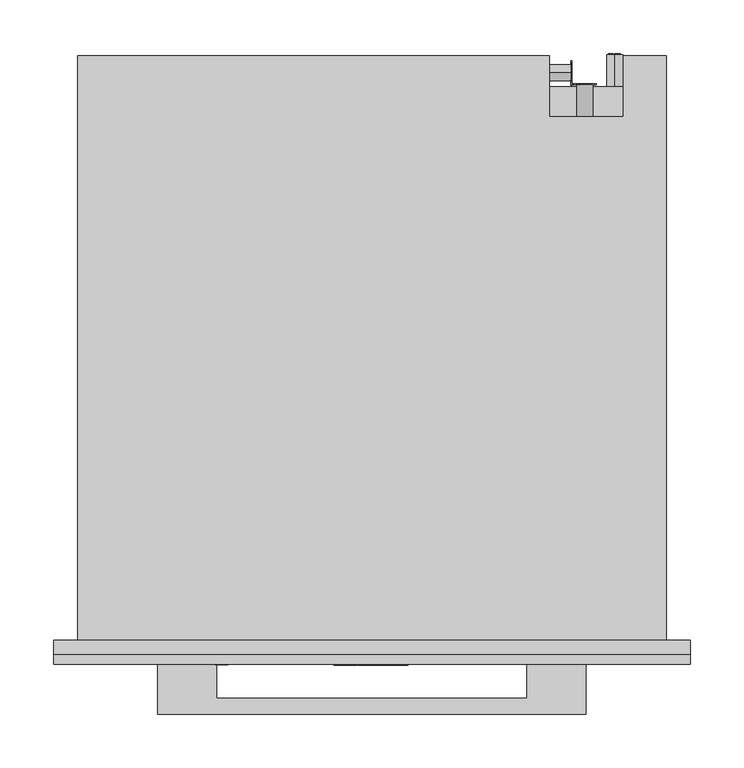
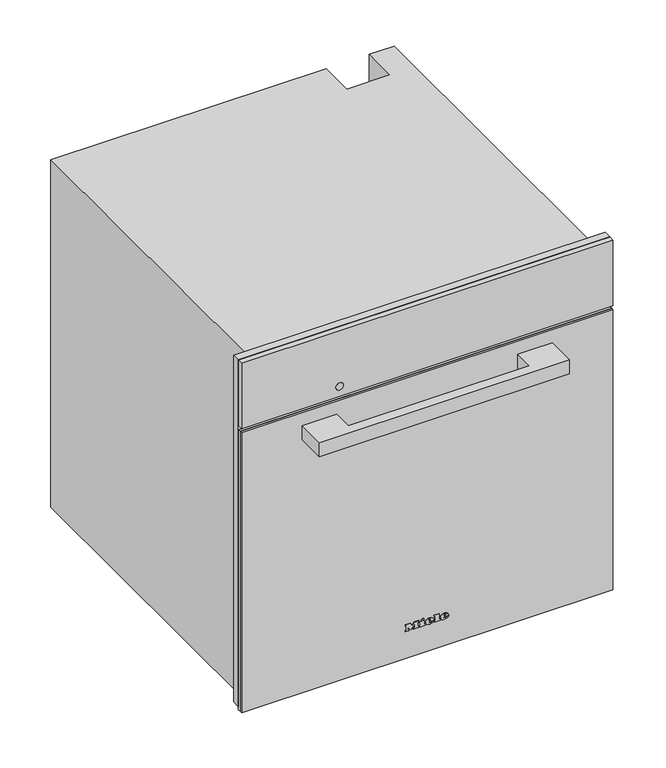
"""IFC4 building model written with IfcOpenShell, lengths in millimetres: proxy geometry, 12094840_F_DGC7665HCPro_BRWS : 23766519_F_12094840_DGC7665HCPro_BRWS."""

from ifc_helpers import new_model, si_unit, point, frame, frame_2d, origin, place, context, project, spatial, polyline, circle_curve, ellipse_curve, trimmed, segment, composite_curve, outline, extrude, faceted_brep, source, transform, mapped, element, save
from ifc_brep_helpers import plane_surface, cylinder_surface, revolved_surface, extruded_surface, advanced_brep


def specialty_equipment_ab99b57f(model_context):
    return source(origin(), model_context, "Body", "SolidModel", [
        extrude(outline(polyline([(596.0, 297.5), (596.0, -297.5), (9.0, -297.5), (9.0, 297.5), (596.0, 297.5)]), holes=[polyline([(485.0, -272.5), (485.0, 272.5), (27.0, 272.5), (27.0, -272.5), (485.0, -272.5)])]), frame((0.0, -13.0, 0.0), z_axis=(0.0, 1.0, 0.0), x_axis=(0.0, 0.0, 1.0)), (0.0, 0.0, 1.0), 13.0),
        extrude(outline(polyline([(523.0, 196.9217896), (523.0, 198.4267862), (533.0435673, 201.1942402), (533.0435673, 199.9014806), (524.4295103, 197.7797951), (533.0470645, 195.3087512), (533.0470645, 193.4373937), (524.4121052, 190.9191482), (533.0472266, 188.8443938), (533.0472266, 187.5376524), (523.0, 190.2769667), (523.0, 191.6257455), (531.8347238, 194.3884733), (523.0, 196.9217896)])), frame((0.0, 519.0, 0.0), z_axis=(0.0, 1.0, 0.0), x_axis=(0.0, 0.0, 1.0)), (0.0, 0.0, 1.0), 1.0),
        extrude(outline(polyline([(533.0468463, 209.521488), (533.0468463, 208.2566067), (528.129594, 208.2566067), (533.0474898, 203.1074328), (533.0474898, 201.3597489), (528.9313111, 205.6695027), (523.0, 201.1858157), (523.0, 202.7358731), (528.0700777, 206.5685235), (526.4282746, 208.2823622), (523.0, 208.2823622), (523.0, 209.521488), (533.0468463, 209.521488)])), frame((0.0, 519.0, 0.0), z_axis=(0.0, 1.0, 0.0), x_axis=(0.0, 0.0, 1.0)), (0.0, 0.0, 1.0), 1.0),
        extrude(outline(polyline([(518.3136153, 20.0), (522.323529, 30.045631), (523.3928394, 30.045631), (527.4027531, 20.0), (526.0759254, 20.0), (524.925681, 23.1392597), (520.7882348, 23.1392597), (519.640443, 20.0), (518.3136153, 20.0)]), holes=[polyline([(521.2493136, 24.3949636), (524.4670548, 24.3949636), (523.5620651, 26.864678), (522.8581842, 28.7899271), (522.2327848, 27.0805021), (521.2493136, 24.3949636)])]), frame((186.0, 0.0, 0.0), z_axis=(1.0, 0.0, 0.0), x_axis=(0.0, 1.0, 0.0)), (0.0, 0.0, 1.0), 1.0),
        extrude(outline(polyline([(530.5420128, 20.0), (527.8025182, 30.045631), (529.0974628, 30.045631), (530.6867131, 23.4433755), (531.1772224, 21.4053092), (531.7020674, 23.207931), (533.6935352, 30.045631), (535.5599232, 30.045631), (537.0069257, 25.0890343), (538.0835937, 21.4053092), (538.5593878, 23.3845144), (540.1633533, 30.045631), (541.4582979, 30.045631), (538.7163507, 20.0), (537.3748077, 20.0), (534.9664069, 27.7500474), (534.630408, 28.8316204), (534.2527159, 27.5293182), (532.0576866, 20.0), (530.5420128, 20.0)])), frame((186.0, 0.0, 0.0), z_axis=(1.0, 0.0, 0.0), x_axis=(0.0, 1.0, 0.0)), (0.0, 0.0, 1.0), 1.0),
        advanced_brep(
        [(227.0, 547.0, 396.5), (227.0, 547.0, 381.5), (221.4098301, 547.0, 384.0), (225.5, 547.0, 384.0), (225.5, 547.0, 394.0), (224.4955303, 547.0, 394.0), (224.4955303, 547.0, 385.0), (221.0315043, 547.0, 385.0), (221.0315043, 547.0, 384.4582978), (232.0, 547.0, 384.0), (232.0, 547.0, 394.0), (227.0, 547.0, 394.0), (227.0, 547.0, 393.0), (231.0, 547.0, 393.0), (231.0, 547.0, 389.5), (228.0, 547.0, 389.5), (228.0, 547.0, 388.5), (231.0, 547.0, 388.5), (231.0, 547.0, 385.0), (227.0, 547.0, 385.0), (227.0, 547.0, 384.0), (227.0, 517.0, 381.5), (227.0, 517.0, 396.5), (232.0, 548.0, 394.0), (232.0, 548.0, 384.0), (227.0, 548.0, 384.0), (227.0, 548.0, 385.0), (231.0, 548.0, 385.0), (231.0, 548.0, 388.5), (228.0, 548.0, 388.5), (228.0, 548.0, 389.5), (231.0, 548.0, 389.5), (231.0, 548.0, 393.0), (227.0, 548.0, 393.0), (227.0, 548.0, 394.0), (225.5, 548.0, 384.0), (221.0315043, 548.0, 384.0), (221.0315043, 548.0, 385.0), (224.4955303, 548.0, 385.0), (224.4955303, 548.0, 394.0), (225.5, 548.0, 394.0), (221.0315043, 547.0, 384.0)],
        [
            (0, 1, circle_curve(frame((227.0, 547.0, 389.0), z_axis=(0.0, 1.0, 0.0), x_axis=(0.0, 0.0, 1.0)), 7.5)),
            (1, 2, circle_curve(frame((227.0, 547.0, 389.0), z_axis=(0.0, 1.0, 0.0), x_axis=(0.0, 0.0, 1.0)), 7.5)),
            (2, 3),
            (3, 4),
            (4, 5),
            (5, 6),
            (6, 7),
            (7, 8),
            (8, 0, circle_curve(frame((227.0, 547.0, 389.0), z_axis=(0.0, 1.0, 0.0), x_axis=(0.0, 0.0, 1.0)), 7.5)),
            (9, 10),
            (10, 11),
            (11, 12),
            (12, 13),
            (13, 14),
            (14, 15),
            (15, 16),
            (16, 17),
            (17, 18),
            (18, 19),
            (19, 20),
            (20, 9),
            (21, 22, circle_curve(frame((227.0, 517.0, 389.0), z_axis=(0.0, -1.0, 0.0), x_axis=(0.0, 0.0, 1.0)), 7.5)),
            (22, 21, circle_curve(frame((227.0, 517.0, 389.0), z_axis=(0.0, -1.0, 0.0), x_axis=(0.0, 0.0, 1.0)), 7.5)),
            (0, 22),
            (21, 1),
            (8, 2, circle_curve(frame((227.0, 547.0, 389.0), z_axis=(0.0, -1.0, 0.0), x_axis=(0.0, 0.0, 1.0)), 7.5)),
            (23, 24),
            (24, 25),
            (25, 26),
            (26, 27),
            (27, 28),
            (28, 29),
            (29, 30),
            (30, 31),
            (31, 32),
            (32, 33),
            (33, 34),
            (34, 23),
            (35, 36),
            (36, 37),
            (37, 38),
            (38, 39),
            (39, 40),
            (40, 35),
            (8, 41),
            (41, 2),
            (23, 10),
            (9, 24),
            (20, 25),
            (19, 26),
            (18, 27),
            (17, 28),
            (16, 29),
            (15, 30),
            (14, 31),
            (13, 32),
            (12, 33),
            (11, 34),
            (35, 3),
            (41, 36),
            (7, 37),
            (6, 38),
            (5, 39),
            (4, 40),
        ],
        [
            plane_surface(frame((227.0, 547.0, 396.5), z_axis=(0.0, 1.0, 0.0), x_axis=(1.0, 0.0, 0.0))),
            plane_surface(frame((227.0, 517.0, 396.5), z_axis=(0.0, -1.0, 0.0), x_axis=(-1.0, 0.0, 0.0))),
            cylinder_surface(frame((227.0, 547.0, 389.0), z_axis=(0.0, -1.0, 0.0), x_axis=(0.0, 0.0, 1.0)), 7.5),
            plane_surface(frame((232.0, 548.0, 394.0), z_axis=(0.0, 1.0, 0.0), x_axis=(0.0, 0.0, -1.0))),
            plane_surface(frame((232.0, 547.0, 394.0), z_axis=(0.0, -1.0, 0.0), x_axis=(0.0, 0.0, 1.0))),
            plane_surface(frame((232.0, 548.0, 394.0), z_axis=(1.0, 0.0, 0.0), x_axis=(0.0, -1.0, 0.0))),
            plane_surface(frame((232.0, 548.0, 384.0), z_axis=(0.0, 0.0, -1.0), x_axis=(0.0, -1.0, 0.0))),
            plane_surface(frame((227.0, 548.0, 384.0), z_axis=(-1.0, 0.0, 0.0), x_axis=(0.0, -1.0, 0.0))),
            plane_surface(frame((227.0, 548.0, 385.0), z_axis=(0.0, 0.0, 1.0), x_axis=(0.0, -1.0, 0.0))),
            plane_surface(frame((231.0, 548.0, 385.0), z_axis=(-1.0, 0.0, 0.0), x_axis=(0.0, -1.0, 0.0))),
            plane_surface(frame((231.0, 548.0, 388.5), z_axis=(0.0, 0.0, -1.0), x_axis=(0.0, -1.0, 0.0))),
            plane_surface(frame((228.0, 548.0, 388.5), z_axis=(-1.0, 0.0, 0.0), x_axis=(0.0, -1.0, 0.0))),
            plane_surface(frame((228.0, 548.0, 389.5), z_axis=(0.0, 0.0, 1.0), x_axis=(0.0, -1.0, 0.0))),
            plane_surface(frame((231.0, 548.0, 389.5), z_axis=(-1.0, 0.0, 0.0), x_axis=(0.0, -1.0, 0.0))),
            plane_surface(frame((231.0, 548.0, 393.0), z_axis=(0.0, 0.0, -1.0), x_axis=(0.0, -1.0, 0.0))),
            plane_surface(frame((227.0, 548.0, 393.0), z_axis=(-1.0, 0.0, 0.0), x_axis=(0.0, -1.0, 0.0))),
            plane_surface(frame((227.0, 548.0, 394.0), z_axis=(0.0, 0.0, 1.0), x_axis=(0.0, -1.0, 0.0))),
            plane_surface(frame((225.5, 548.0, 384.0), z_axis=(0.0, 0.0, -1.0), x_axis=(0.0, -1.0, 0.0))),
            plane_surface(frame((221.0315043, 548.0, 384.0), z_axis=(-1.0, 0.0, 0.0), x_axis=(0.0, -1.0, 0.0))),
            plane_surface(frame((221.0315043, 548.0, 385.0), z_axis=(0.0, 0.0, 1.0), x_axis=(0.0, -1.0, 0.0))),
            plane_surface(frame((224.4955303, 548.0, 385.0), z_axis=(-1.0, 0.0, 0.0), x_axis=(0.0, -1.0, 0.0))),
            plane_surface(frame((224.4955303, 548.0, 394.0), z_axis=(0.0, 0.0, 1.0), x_axis=(0.0, -1.0, 0.0))),
            plane_surface(frame((225.5, 548.0, 394.0), z_axis=(1.0, 0.0, 0.0), x_axis=(0.0, -1.0, 0.0))),
        ],
        [
            (0, [[1, 2, 3, 4, 5, 6, 7, 8, 9], [10, 11, 12, 13, 14, 15, 16, 17, 18, 19, 20, 21]]),
            (1, [[22, 23]]),
            (2, [[-1, 24, -22, 25]]),
            (2, [[-23, -24, -9, 26, -2, -25]]),
            (3, [[27, 28, 29, 30, 31, 32, 33, 34, 35, 36, 37, 38]]),
            (3, [[39, 40, 41, 42, 43, 44]]),
            (4, [[45, 46, -26]]),
            (5, [[-27, 47, -10, 48]]),
            (6, [[-28, -48, -21, 49]]),
            (7, [[-29, -49, -20, 50]]),
            (8, [[-30, -50, -19, 51]]),
            (9, [[-31, -51, -18, 52]]),
            (10, [[-32, -52, -17, 53]]),
            (11, [[-33, -53, -16, 54]]),
            (12, [[-34, -54, -15, 55]]),
            (13, [[-35, -55, -14, 56]]),
            (14, [[-36, -56, -13, 57]]),
            (15, [[-37, -57, -12, 58]]),
            (16, [[-38, -58, -11, -47]]),
            (17, [[-39, 59, -3, -46, 60]]),
            (18, [[-40, -60, -45, -8, 61]]),
            (19, [[-41, -61, -7, 62]]),
            (20, [[-42, -62, -6, 63]]),
            (21, [[-43, -63, -5, 64]]),
            (22, [[-44, -64, -4, -59]]),
        ],
    ),
        extrude(outline(composite_curve([segment(trimmed(circle_curve(frame_2d((528.0, 199.0)), 7.5), [point((528.0, 206.5))], [point((528.0, 191.5))], False, "CARTESIAN"), True, "CONTINUOUS"), segment(trimmed(circle_curve(frame_2d((528.0, 199.0)), 7.5), [point((528.0, 191.5))], [point((528.0, 206.5))], False, "CARTESIAN"), True, "CONTINUOUS")], self_intersect=False)), frame((0.0, 489.0, 0.0), z_axis=(0.0, 1.0, 0.0), x_axis=(0.0, 0.0, 1.0)), (0.0, 0.0, 1.0), 30.0),
        extrude(outline(composite_curve([segment(trimmed(circle_curve(frame_2d((530.0, 25.0)), 7.5), [point((530.0, 17.5))], [point((530.0, 32.5))], False, "CARTESIAN"), True, "CONTINUOUS"), segment(trimmed(circle_curve(frame_2d((530.0, 25.0)), 7.5), [point((530.0, 32.5))], [point((530.0, 17.5))], False, "CARTESIAN"), True, "CONTINUOUS")], self_intersect=False)), frame((166.0, 0.0, 0.0), z_axis=(1.0, 0.0, 0.0), x_axis=(0.0, 1.0, 0.0)), (0.0, 0.0, 1.0), 20.0),
        faceted_brep([(-275.0, 546.0, 0.0), (-275.0, 546.0, 588.0), (166.0, 546.0, 588.0), (166.0, 546.0, 0.0), (235.0, 546.0, 588.0), (275.0, 546.0, 588.0), (275.0, 546.0, 478.0), (235.0, 546.0, 478.0), (275.0, 0.0, 588.0), (-275.0, 0.0, 588.0), (-275.0, 0.0, 0.0), (275.0, 0.0, 0.0), (-272.5, 0.0, 485.0), (272.5, 0.0, 485.0), (272.5, 0.0, 27.0), (-272.5, 0.0, 27.0), (235.0, 489.0, 588.0), (166.0, 489.0, 588.0), (166.0, 517.0, 0.0), (275.0, 517.0, 0.0), (275.0, 517.0, 478.0), (272.5, 17.0, 485.0), (-272.5, 17.0, 485.0), (-272.5, 17.0, 27.0), (272.5, 17.0, 27.0), (231.0, 17.0, 409.0), (231.0, 17.0, 61.0), (-231.0, 17.0, 61.0), (-231.0, 17.0, 409.0), (231.0, 411.0, 409.0), (-231.0, 411.0, 409.0), (-231.0, 411.0, 61.0), (231.0, 411.0, 61.0), (235.0, 489.0, 477.0), (166.0, 489.0, 477.0), (166.0, 517.0, 477.0), (235.0, 517.0, 477.0), (235.0, 517.0, 478.0)], [[[0, 1, 2, 3]], [[4, 5, 6, 7]], [[8, 9, 10, 11], [12, 13, 14, 15]], [[9, 8, 5, 4, 16, 17, 2, 1]], [[1, 0, 10, 9]], [[11, 10, 0, 3, 18, 19]], [[8, 11, 19, 20, 6, 5]], [[21, 22, 23, 24], [25, 26, 27, 28]], [[22, 21, 13, 12]], [[23, 22, 12, 15]], [[24, 23, 15, 14]], [[21, 24, 14, 13]], [[29, 30, 31, 32]], [[29, 32, 26, 25]], [[32, 31, 27, 26]], [[31, 30, 28, 27]], [[30, 29, 25, 28]], [[16, 33, 34, 17]], [[17, 34, 35, 18, 3, 2]], [[34, 33, 36, 35]], [[33, 16, 4, 7, 37, 36]], [[37, 20, 19, 18, 35, 36]], [[20, 37, 7, 6]]]),
        advanced_brep(
        [(26.2998, -23.0, 52.7018), (26.2998, -23.0, 53.8532), (33.9264, -23.0, 53.8532), (20.6568, -23.0, 53.8532), (23.7918, -23.0, 50.0), (33.7326, -23.0, 52.7018), (30.2898, -23.0, 52.7018), (27.5766, -23.0, 51.425), (26.2998, -23.0, 55.3124), (26.2998, -23.0, 56.555), (28.2492, -23.0, 56.555), (28.2492, -23.0, 55.3124), (26.2998, -22.0, 52.7018), (27.5766, -22.0, 51.425), (30.2898, -22.0, 52.7018), (33.7326, -22.0, 52.7018), (23.7918, -22.0, 50.0), (20.6568, -22.0, 53.8532), (33.9264, -22.0, 53.8532), (26.2998, -22.0, 53.8532), (26.2998, -22.0, 55.3124), (28.2492, -22.0, 55.3124), (28.2492, -22.0, 56.555), (26.2998, -22.0, 56.555)],
        [
            (0, 1),
            (1, 2),
            (2, 3, ellipse_curve(frame((27.2916, -23.0, 53.8532), z_axis=(0.0, -1.0, 0.0), x_axis=(-1.0, 0.0, 0.0)), 6.6348, 5.4834)),
            (3, 4, circle_curve(frame((25.0686622, -23.0, 54.2408), z_axis=(0.0, -1.0, 0.0), x_axis=(0.0, 0.0, -1.0)), 4.4288556)),
            (4, 5, circle_curve(frame((27.1587808, -23.0, 57.2504), z_axis=(0.0, -1.0, 0.0), x_axis=(0.0, 0.0, -1.0)), 7.9940516)),
            (5, 6),
            (6, 7, circle_curve(frame((28.1338588, -23.0, 53.762), z_axis=(0.0, 1.0, 0.0), x_axis=(0.0, 0.0, -1.0)), 2.4025208)),
            (7, 0, circle_curve(frame((27.5766, -23.0, 52.7018), z_axis=(0.0, 1.0, 0.0), x_axis=(0.0, 0.0, -1.0)), 1.2768)),
            (8, 9),
            (9, 10, circle_curve(frame((27.2745, -23.0, 56.555), z_axis=(0.0, 1.0, 0.0), x_axis=(0.0, 0.0, -1.0)), 0.9747)),
            (10, 11),
            (11, 8),
            (12, 13, circle_curve(frame((27.5766, -22.0, 52.7018), z_axis=(0.0, -1.0, 0.0), x_axis=(0.0, 0.0, -1.0)), 1.2768)),
            (13, 14, circle_curve(frame((28.1338588, -22.0, 53.762), z_axis=(0.0, -1.0, 0.0), x_axis=(0.0, 0.0, -1.0)), 2.4025208)),
            (14, 15),
            (15, 16, circle_curve(frame((27.1587808, -22.0, 57.2504), z_axis=(0.0, 1.0, 0.0), x_axis=(0.0, 0.0, -1.0)), 7.9940516)),
            (16, 17, circle_curve(frame((25.0686622, -22.0, 54.2408), z_axis=(0.0, 1.0, 0.0), x_axis=(0.0, 0.0, -1.0)), 4.4288556)),
            (17, 18, ellipse_curve(frame((27.2916, -22.0, 53.8532), z_axis=(0.0, 1.0, 0.0), x_axis=(-1.0, 0.0, 0.0)), 6.6348, 5.4834)),
            (18, 19),
            (19, 12),
            (20, 21),
            (21, 22),
            (22, 23, circle_curve(frame((27.2745, -22.0, 56.555), z_axis=(0.0, -1.0, 0.0), x_axis=(0.0, 0.0, -1.0)), 0.9747)),
            (23, 20),
            (0, 12),
            (19, 1),
            (18, 2),
            (5, 15),
            (14, 6),
            (17, 3),
            (13, 7),
            (16, 4),
            (8, 20),
            (23, 9),
            (22, 10),
            (21, 11),
        ],
        [
            plane_surface(frame((26.2998, -23.0, 53.8532), z_axis=(0.0, -1.0, 0.0), x_axis=(0.0, 0.0, 1.0))),
            plane_surface(frame((26.2998, -22.0, 53.8532), z_axis=(0.0, 1.0, 0.0), x_axis=(0.0, 0.0, -1.0))),
            plane_surface(frame((26.2998, -23.0, 52.7018), z_axis=(1.0, 0.0, 0.0), x_axis=(0.0, 1.0, 0.0))),
            plane_surface(frame((26.2998, -23.0, 53.8532), z_axis=(0.0, 0.0, -1.0), x_axis=(0.0, 1.0, 0.0))),
            plane_surface(frame((33.7326, -23.0, 52.7018), z_axis=(0.0, 0.0, 1.0), x_axis=(0.0, 1.0, 0.0))),
            extruded_surface(trimmed(ellipse_curve(frame((27.2916, -21.0, 53.8532), z_axis=(0.0, -1.0, 0.0), x_axis=(-1.0, 0.0, 0.0)), 6.6348, 5.4834), [point((33.9264, -21.0, 53.8532))], [point((20.6568, -21.0, 53.8532))], True, "CARTESIAN"), (0.0, -1.0, 0.0), 1.0),
            revolved_surface(polyline([(28.1338588, -22.0, 51.3594792), (28.1338588, -23.0, 51.3594792)]), (28.1338588, -22.0, 53.762), (0.0, 1.0, 0.0)),
            revolved_surface(polyline([(27.5766, -22.0, 51.425), (27.5766, -23.0, 51.425)]), (27.5766, -22.0, 52.7018), (0.0, 1.0, 0.0)),
            cylinder_surface(frame((25.0686622, -22.0, 54.2408), z_axis=(0.0, -1.0, 0.0), x_axis=(0.0, 0.0, -1.0)), 4.4288556),
            cylinder_surface(frame((27.1587808, -22.0, 57.2504), z_axis=(0.0, -1.0, 0.0), x_axis=(0.0, 0.0, -1.0)), 7.9940516),
            plane_surface(frame((26.2998, -23.0, 55.3124), z_axis=(1.0, 0.0, 0.0), x_axis=(0.0, 1.0, 0.0))),
            revolved_surface(polyline([(27.2745, -22.0, 55.5803), (27.2745, -23.0, 55.5803)]), (27.2745, -22.0, 56.555), (0.0, 1.0, 0.0)),
            plane_surface(frame((28.2492, -23.0, 56.555), z_axis=(-1.0, 0.0, 0.0), x_axis=(0.0, 1.0, 0.0))),
            plane_surface(frame((28.2492, -23.0, 55.3124), z_axis=(0.0, 0.0, 1.0), x_axis=(0.0, 1.0, 0.0))),
        ],
        [
            (0, [[1, 2, 3, 4, 5, 6, 7, 8], [9, 10, 11, 12]]),
            (1, [[13, 14, 15, 16, 17, 18, 19, 20], [21, 22, 23, 24]]),
            (2, [[-1, 25, -20, 26]]),
            (3, [[-2, -26, -19, 27]]),
            (4, [[-6, 28, -15, 29]]),
            (5, [[-3, -27, -18, 30]]),
            (6, [[-7, -29, -14, 31]]),
            (7, [[-8, -31, -13, -25]]),
            (8, [[-4, -30, -17, 32]]),
            (9, [[-5, -32, -16, -28]]),
            (10, [[-9, 33, -24, 34]]),
            (11, [[-10, -34, -23, 35]]),
            (12, [[-11, -35, -22, 36]]),
            (13, [[-12, -36, -21, -33]]),
        ],
    ),
        advanced_brep(
        [(2.508, -23.0, 52.7018), (2.508, -23.0, 53.8532), (10.1346, -23.0, 53.8532), (-3.135, -23.0, 53.8532), (0.0, -23.0, 50.0), (9.9408, -23.0, 52.7018), (6.498, -23.0, 52.7018), (3.7848, -23.0, 51.425), (2.508, -23.0, 55.3124), (2.508, -23.0, 56.555), (4.4574, -23.0, 56.555), (4.4574, -23.0, 55.3124), (2.508, -22.0, 52.7018), (3.7848, -22.0, 51.425), (6.498, -22.0, 52.7018), (9.9408, -22.0, 52.7018), (0.0, -22.0, 50.0), (-3.135, -22.0, 53.8532), (10.1346, -22.0, 53.8532), (2.508, -22.0, 53.8532), (2.508, -22.0, 55.3124), (4.4574, -22.0, 55.3124), (4.4574, -22.0, 56.555), (2.508, -22.0, 56.555)],
        [
            (0, 1),
            (1, 2),
            (2, 3, ellipse_curve(frame((3.4998, -23.0, 53.8532), z_axis=(0.0, -1.0, 0.0), x_axis=(-1.0, 0.0, 0.0)), 6.6348, 5.4834)),
            (3, 4, circle_curve(frame((1.2768622, -23.0, 54.2408), z_axis=(0.0, -1.0, 0.0), x_axis=(0.0, 0.0, -1.0)), 4.4288556)),
            (4, 5, circle_curve(frame((3.3669808, -23.0, 57.2504), z_axis=(0.0, -1.0, 0.0), x_axis=(0.0, 0.0, -1.0)), 7.9940516)),
            (5, 6),
            (6, 7, circle_curve(frame((4.3420588, -23.0, 53.762), z_axis=(0.0, 1.0, 0.0), x_axis=(0.0, 0.0, -1.0)), 2.4025208)),
            (7, 0, circle_curve(frame((3.7848, -23.0, 52.7018), z_axis=(0.0, 1.0, 0.0), x_axis=(0.0, 0.0, -1.0)), 1.2768)),
            (8, 9),
            (9, 10, circle_curve(frame((3.4827, -23.0, 56.555), z_axis=(0.0, 1.0, 0.0), x_axis=(0.0, 0.0, -1.0)), 0.9747)),
            (10, 11),
            (11, 8),
            (12, 13, circle_curve(frame((3.7848, -22.0, 52.7018), z_axis=(0.0, -1.0, 0.0), x_axis=(0.0, 0.0, -1.0)), 1.2768)),
            (13, 14, circle_curve(frame((4.3420588, -22.0, 53.762), z_axis=(0.0, -1.0, 0.0), x_axis=(0.0, 0.0, -1.0)), 2.4025208)),
            (14, 15),
            (15, 16, circle_curve(frame((3.3669808, -22.0, 57.2504), z_axis=(0.0, 1.0, 0.0), x_axis=(0.0, 0.0, -1.0)), 7.9940516)),
            (16, 17, circle_curve(frame((1.2768622, -22.0, 54.2408), z_axis=(0.0, 1.0, 0.0), x_axis=(0.0, 0.0, -1.0)), 4.4288556)),
            (17, 18, ellipse_curve(frame((3.4998, -22.0, 53.8532), z_axis=(0.0, 1.0, 0.0), x_axis=(-1.0, 0.0, 0.0)), 6.6348, 5.4834)),
            (18, 19),
            (19, 12),
            (20, 21),
            (21, 22),
            (22, 23, circle_curve(frame((3.4827, -22.0, 56.555), z_axis=(0.0, -1.0, 0.0), x_axis=(0.0, 0.0, -1.0)), 0.9747)),
            (23, 20),
            (0, 12),
            (19, 1),
            (18, 2),
            (5, 15),
            (14, 6),
            (17, 3),
            (13, 7),
            (16, 4),
            (8, 20),
            (23, 9),
            (22, 10),
            (21, 11),
        ],
        [
            plane_surface(frame((2.508, -23.0, 53.8532), z_axis=(0.0, -1.0, 0.0), x_axis=(0.0, 0.0, 1.0))),
            plane_surface(frame((2.508, -22.0, 53.8532), z_axis=(0.0, 1.0, 0.0), x_axis=(0.0, 0.0, -1.0))),
            plane_surface(frame((2.508, -23.0, 52.7018), z_axis=(1.0, 0.0, 0.0), x_axis=(0.0, 1.0, 0.0))),
            plane_surface(frame((2.508, -23.0, 53.8532), z_axis=(0.0, 0.0, -1.0), x_axis=(0.0, 1.0, 0.0))),
            plane_surface(frame((9.9408, -23.0, 52.7018), z_axis=(0.0, 0.0, 1.0), x_axis=(0.0, 1.0, 0.0))),
            extruded_surface(trimmed(ellipse_curve(frame((3.4998, -21.0, 53.8532), z_axis=(0.0, -1.0, 0.0), x_axis=(-1.0, 0.0, 0.0)), 6.6348, 5.4834), [point((10.1346, -21.0, 53.8532))], [point((-3.135, -21.0, 53.8532))], True, "CARTESIAN"), (0.0, -1.0, 0.0), 1.0),
            revolved_surface(polyline([(4.3420588, -22.0, 51.3594792), (4.3420588, -23.0, 51.3594792)]), (4.3420588, -22.0, 53.762), (0.0, 1.0, 0.0)),
            revolved_surface(polyline([(3.7848, -22.0, 51.425), (3.7848, -23.0, 51.425)]), (3.7848, -22.0, 52.7018), (0.0, 1.0, 0.0)),
            cylinder_surface(frame((1.2768622, -22.0, 54.2408), z_axis=(0.0, -1.0, 0.0), x_axis=(0.0, 0.0, -1.0)), 4.4288556),
            cylinder_surface(frame((3.3669808, -22.0, 57.2504), z_axis=(0.0, -1.0, 0.0), x_axis=(0.0, 0.0, -1.0)), 7.9940516),
            plane_surface(frame((2.508, -23.0, 55.3124), z_axis=(1.0, 0.0, 0.0), x_axis=(0.0, 1.0, 0.0))),
            revolved_surface(polyline([(3.4827, -22.0, 55.5803), (3.4827, -23.0, 55.5803)]), (3.4827, -22.0, 56.555), (0.0, 1.0, 0.0)),
            plane_surface(frame((4.4574, -23.0, 56.555), z_axis=(-1.0, 0.0, 0.0), x_axis=(0.0, 1.0, 0.0))),
            plane_surface(frame((4.4574, -23.0, 55.3124), z_axis=(0.0, 0.0, 1.0), x_axis=(0.0, 1.0, 0.0))),
        ],
        [
            (0, [[1, 2, 3, 4, 5, 6, 7, 8], [9, 10, 11, 12]]),
            (1, [[13, 14, 15, 16, 17, 18, 19, 20], [21, 22, 23, 24]]),
            (2, [[-1, 25, -20, 26]]),
            (3, [[-2, -26, -19, 27]]),
            (4, [[-6, 28, -15, 29]]),
            (5, [[-3, -27, -18, 30]]),
            (6, [[-7, -29, -14, 31]]),
            (7, [[-8, -31, -13, -25]]),
            (8, [[-4, -30, -17, 32]]),
            (9, [[-5, -32, -16, -28]]),
            (10, [[-9, 33, -24, 34]]),
            (11, [[-10, -34, -23, 35]]),
            (12, [[-11, -35, -22, 36]]),
            (13, [[-12, -36, -21, -33]]),
        ],
    ),
        extrude(outline(polyline([(60.7274, -9.9522), (58.8806, -9.0858), (60.6818, -5.2212), (62.5286, -6.0762), (60.7274, -9.9522)])), frame((0.0, -23.0, 0.0), z_axis=(0.0, 1.0, 0.0), x_axis=(0.0, 0.0, 1.0)), (0.0, 0.0, 1.0), 1.0),
        extrude(outline(polyline([(58.6298, -12.768), (56.5892, -12.768), (56.5892, -11.4114), (51.9152, -11.4114), (51.9152, -12.768), (50.0, -12.768), (50.0, -3.7734), (51.9152, -3.7734), (51.9152, -5.0958), (58.6298, -5.0958), (58.6298, -12.768)])), frame((0.0, -23.0, 0.0), z_axis=(0.0, 1.0, 0.0), x_axis=(0.0, 0.0, 1.0)), (0.0, 0.0, 1.0), 1.0),
        extrude(outline(polyline([(59.5418, 10.773), (59.5418, 12.141), (51.9152, 12.141), (51.9152, 10.773), (50.0, 10.773), (50.0, 20.0184), (51.9152, 20.0184), (51.9152, 18.6162), (61.4, 18.6162), (61.4, 10.773), (59.5418, 10.773)])), frame((0.0, -23.0, 0.0), z_axis=(0.0, 1.0, 0.0), x_axis=(0.0, 0.0, 1.0)), (0.0, 0.0, 1.0), 1.0),
        extrude(outline(polyline([(59.5418, -35.4882), (59.5418, -34.1088), (51.9152, -34.1088), (51.9152, -35.4882), (50.0, -35.4882), (50.0, -30.4722), (51.9152, -30.4722), (51.9152, -31.8402), (56.7429247, -31.8402), (50.0, -26.7444), (56.9402223, -21.6258), (51.9152, -21.6258), (51.9152, -23.028), (50.0, -23.028), (50.0, -13.9308), (51.9152, -13.9308), (51.9152, -15.3786), (59.5418, -15.3786), (59.5418, -13.9308), (61.4, -13.9308), (61.4, -20.8734), (57.125, -24.2022), (61.4, -27.5424), (61.4, -35.4882), (59.5418, -35.4882)])), frame((0.0, -23.0, 0.0), z_axis=(0.0, 1.0, 0.0), x_axis=(0.0, 0.0, 1.0)), (0.0, 0.0, 1.0), 1.0),
        extrude(outline(polyline([(297.5, -22.0), (-297.5, -22.0), (-297.5, -13.0), (297.5, -13.0), (297.5, -22.0)])), frame((0.0, 0.0, 485.0), z_axis=(0.0, 0.0, 1.0), x_axis=(1.0, 0.0, 0.0)), (0.0, 0.0, 1.0), 111.0),
        extrude(outline(composite_curve([segment(trimmed(circle_curve(frame_2d((502.0, -140.5745637)), 6.0), [point((502.0, -146.5745637))], [point((502.0, -134.5745637))], False, "CARTESIAN"), True, "CONTINUOUS"), segment(trimmed(circle_curve(frame_2d((502.0, -140.5745637)), 6.0), [point((502.0, -134.5745637))], [point((502.0, -146.5745637))], False, "CARTESIAN"), True, "CONTINUOUS")], self_intersect=False)), frame((0.0, -22.5, 0.0), z_axis=(0.0, 1.0, 0.0), x_axis=(0.0, 0.0, 1.0)), (0.0, 0.0, 1.0), 1.0),
        extrude(outline(polyline([(-200.0, -69.0), (-200.0, -22.0), (-145.0, -22.0), (-145.0, -54.0), (145.0, -54.0), (145.0, -22.0), (200.0, -22.0), (200.0, -69.0), (-200.0, -69.0)])), frame((0.0, 0.0, 432.0), z_axis=(0.0, 0.0, 1.0), x_axis=(1.0, 0.0, 0.0)), (0.0, 0.0, 1.0), 24.0),
        extrude(outline(polyline([(297.5, -18.0), (-297.5, -18.0), (-297.5, -13.0), (297.5, -13.0), (297.5, -18.0)])), frame((0.0, 0.0, 4.0), z_axis=(0.0, 0.0, 1.0), x_axis=(1.0, 0.0, 0.0)), (0.0, 0.0, 1.0), 474.0),
        extrude(outline(polyline([(-297.5, -18.0), (297.5, -18.0), (297.5, -22.0), (-297.5, -22.0), (-297.5, -18.0)])), frame((0.0, 0.0, 4.0), z_axis=(0.0, 0.0, 1.0), x_axis=(1.0, 0.0, 0.0)), (0.0, 0.0, 1.0), 474.0),
    ])


if __name__ == "__main__":
    model = new_model("IFC4")
    model_context = context("Model", 3, world=origin())
    ifc_project = project(units=[si_unit("LENGTHUNIT", "METRE", prefix="MILLI")], contexts=[model_context])
    site = spatial("IfcSite", under=ifc_project)
    building = spatial("IfcBuilding", under=site)
    placement = place(None, origin())
    specialty_equipment_shape = specialty_equipment_ab99b57f(model_context)
    element("IfcBuildingElementProxy", 1, Name="12094840_F_DGC7665HCPro_BRWS : 23766519_F_12094840_DGC7665HCPro_BRWS", ObjectType="12094840_F_DGC7665HCPro_BRWS : 23766519_F_12094840_DGC7665HCPro_BRWS", at=placement, inside=building, context=model_context, shape_type="MappedRepresentation", body=[
        mapped(specialty_equipment_shape, transform((0.0, 0.0, 0.0), x_axis=(1.0, 0.0, 0.0), y_axis=(0.0, 1.0, 0.0), z_axis=(0.0, 0.0, 1.0))),
    ])
    save(model, "model.ifc")
